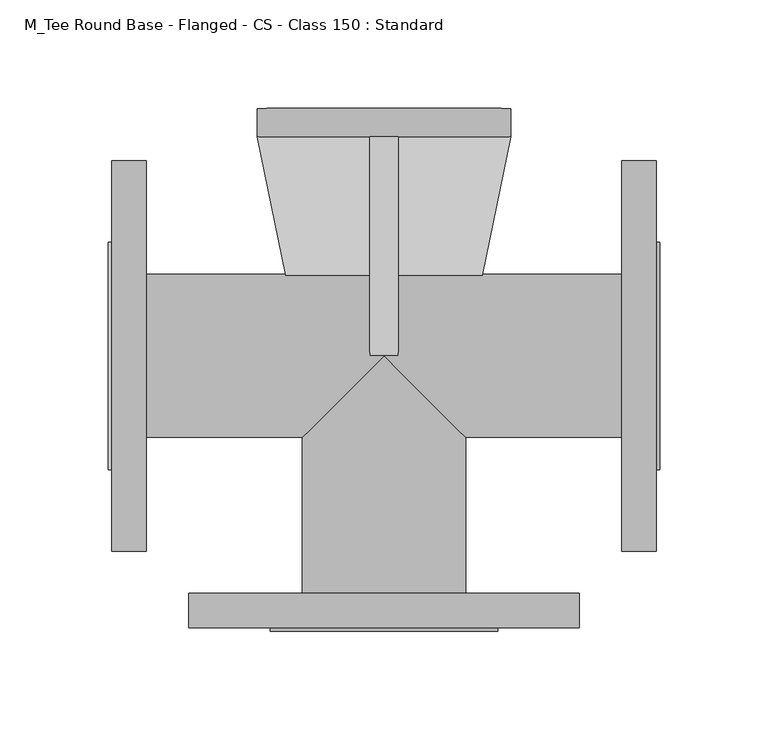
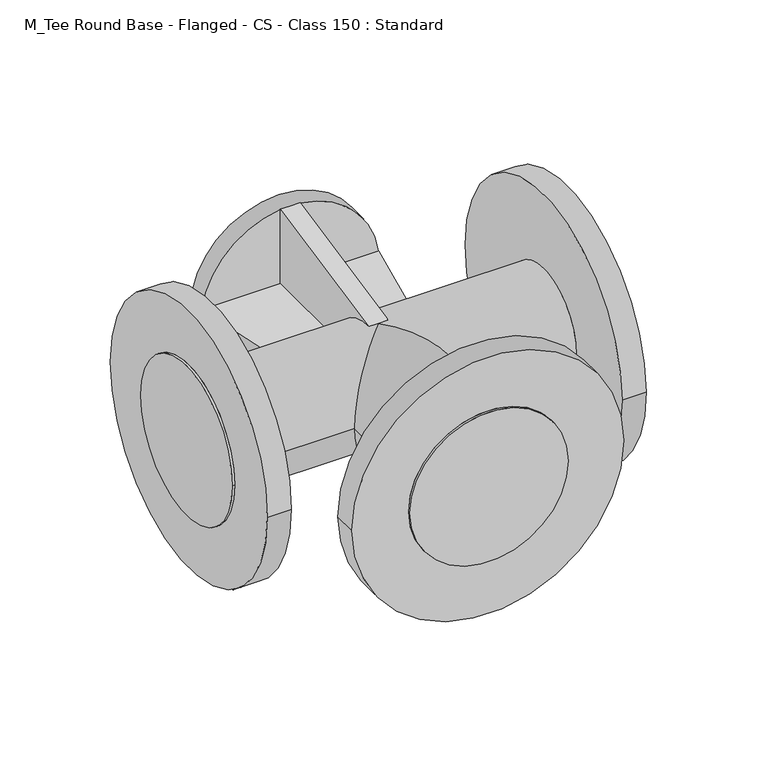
"""IFC4 building model written with IfcOpenShell, lengths in millimetres: pipe fitting geometry, M_Tee Round Base - Flanged - CS - Class 150 : Standard."""

import ifcopenshell
import ifcopenshell.guid

model = None  # the IFC model being written
_history = None  # IfcOwnerHistory: only IFC2X3 demands one
_inside = {}  # id of a spatial element -> (the spatial element, [elements in it])
_under = {}  # id of a project, library or spatial element -> (it, [spatial elements below it])
_declared = {}  # id of a project -> (the project, [libraries it declares])
_typed = {}  # id of a type object -> (the type object, [elements of that type])
_made_of = {}  # id of a material, layer set ... -> (it, [elements and type objects made of it])


def new_model(schema):
    """Start an empty IFC model of exactly this schema.

    Asked for "IFC4X3", IfcOpenShell would pick the latest addendum, in which some entities
    have other attributes; the version numbers below select the first issue.
    IFC2X3 requires an IfcOwnerHistory on every rooted entity: one is made here for all.
    """
    global model, _history
    if schema == "IFC4X3":
        model = ifcopenshell.file(schema_version=(4, 3, 0, 0))
    else:
        model = ifcopenshell.file(schema=schema)
    _inside.clear()
    _under.clear()
    _declared.clear()
    _typed.clear()
    _made_of.clear()
    _history = None
    if model.schema == "IFC2X3":
        org = make("IfcOrganization", Name="unknown")
        user = make(
            "IfcPersonAndOrganization",
            ThePerson=make("IfcPerson", FamilyName="unknown"),
            TheOrganization=org,
        )
        app = make(
            "IfcApplication",
            ApplicationDeveloper=org,
            Version="unknown",
            ApplicationFullName="unknown",
            ApplicationIdentifier="unknown",
        )
        _history = make(
            "IfcOwnerHistory",
            OwningUser=user,
            OwningApplication=app,
            ChangeAction="ADDED",
            CreationDate=0,
        )
    return model


def make(cls, **values):
    """One entity of the class cls with the attributes given. An attribute that is None is left unset."""
    return model.create_entity(
        cls, **{name: value for name, value in values.items() if value is not None}
    )


def rooted(cls, **values):
    """An entity with a GlobalId (a new one), such as an element, a storey or a relation."""
    return make(cls, GlobalId=ifcopenshell.guid.new(), OwnerHistory=_history, **values)


def si_unit(unit_type, name, prefix=None):
    """IfcSIUnit, for example si_unit("LENGTHUNIT", "METRE", prefix="MILLI")."""
    return make("IfcSIUnit", UnitType=unit_type, Prefix=prefix, Name=name)


def assignment(units):
    """IfcUnitAssignment: the units of a project."""
    return None if units is None else make("IfcUnitAssignment", Units=units)


def point(xyz):
    """IfcCartesianPoint."""
    return None if xyz is None else make("IfcCartesianPoint", Coordinates=xyz)


def direction(xyz):
    """IfcDirection."""
    return None if xyz is None else make("IfcDirection", DirectionRatios=xyz)


def frame(location, z_axis=None, x_axis=None):
    """IfcAxis2Placement3D, a coordinate frame: its origin and axes. An axis left out is left unset."""
    return make(
        "IfcAxis2Placement3D",
        Location=point(location),
        Axis=direction(z_axis),
        RefDirection=direction(x_axis),
    )


def origin():
    """The frame at (0, 0, 0) with its axes left unset."""
    return frame((0.0, 0.0, 0.0))


def place(relative_to, where):
    """IfcLocalPlacement: puts the frame where relative to a parent placement (None: the world)."""
    return make(
        "IfcLocalPlacement", PlacementRelTo=relative_to, RelativePlacement=where
    )


def context(
    kind, dimensions, precision=None, world=None, true_north=None, identifier=None
):
    """IfcGeometricRepresentationContext, for example the 3D "Model" context."""
    return make(
        "IfcGeometricRepresentationContext",
        ContextIdentifier=identifier,
        ContextType=kind,
        CoordinateSpaceDimension=dimensions,
        Precision=precision,
        WorldCoordinateSystem=world,
        TrueNorth=true_north,
    )


def project(units=None, contexts=None):
    """IfcProject with its units and contexts."""
    return rooted(
        "IfcProject",
        Name="project",
        RepresentationContexts=contexts,
        UnitsInContext=assignment(units),
    )


def spatial(cls, under=None, at=None, **own):
    """A site, building, storey or space (cls), placed at a placement, below another one or the project."""
    s = rooted(cls, ObjectPlacement=at, **own)
    if under is not None:
        _under.setdefault(under.id(), (under, []))[1].append(s)
    return s


def circle_curve(where, radius):
    """IfcCircle in the frame where."""
    return make("IfcCircle", Position=where, Radius=radius)


def ellipse_curve(where, semi_axis1, semi_axis2):
    """IfcEllipse in the frame where."""
    return make(
        "IfcEllipse", Position=where, SemiAxis1=semi_axis1, SemiAxis2=semi_axis2
    )


def shape(context_of_items, identifier, shape_type, items):
    """IfcShapeRepresentation: the items that make up one representation, for example the "Body"."""
    return make(
        "IfcShapeRepresentation",
        ContextOfItems=context_of_items,
        RepresentationIdentifier=identifier,
        RepresentationType=shape_type,
        Items=items,
    )


def source(mapping_origin, context_of_items, identifier, shape_type, items):
    """IfcRepresentationMap: a shape defined once, which mapped items show again and again."""
    return make(
        "IfcRepresentationMap",
        MappingOrigin=mapping_origin,
        MappedRepresentation=shape(context_of_items, identifier, shape_type, items),
    )


def transform(
    local_origin,
    x_axis=None,
    y_axis=None,
    z_axis=None,
    scale=None,
    scale2=None,
    scale3=None,
    uniform=True,
):
    """IfcCartesianTransformationOperator3D, or its non-uniform kind. x_axis, y_axis, z_axis: its Axis1, 2, 3."""
    if uniform:
        return make(
            "IfcCartesianTransformationOperator3D",
            Axis1=direction(x_axis),
            Axis2=direction(y_axis),
            LocalOrigin=point(local_origin),
            Scale=scale,
            Axis3=direction(z_axis),
        )
    return make(
        "IfcCartesianTransformationOperator3DnonUniform",
        Axis1=direction(x_axis),
        Axis2=direction(y_axis),
        LocalOrigin=point(local_origin),
        Scale=scale,
        Axis3=direction(z_axis),
        Scale2=scale2,
        Scale3=scale3,
    )


def mapped(mapping_source, mapping_target):
    """IfcMappedItem: shows the shape of a source again, moved by a transform."""
    return make(
        "IfcMappedItem", MappingSource=mapping_source, MappingTarget=mapping_target
    )


def made_of(thing, what):
    """Note that an element or type object is made of a material, layer set ...; save() writes the relation."""
    if what is not None:
        _made_of.setdefault(what.id(), (what, []))[1].append(thing)
    return thing


def element(
    cls,
    number,
    at=None,
    inside=None,
    cuts=None,
    type_object=None,
    material=None,
    context=None,
    identifier="Body",
    shape_type=None,
    held_by="IfcProductDefinitionShape",
    body=None,
    shapes=None,
    **own,
):
    """One element of the class cls, such as IfcWall. Its Tag is "e" and its number.

    at: its placement. inside: the storey or other place that contains it. cuts: it is an
    opening in that element (IfcRelVoidsElement). A single representation is given by context,
    identifier, shape_type and body (its items); several are given by shapes. held_by: the class
    of the entity that holds the representations. save() writes the other relations.
    """
    e = rooted(cls, Tag="e%d" % number, ObjectPlacement=at, **own)
    if body is not None:
        shapes = [shape(context, identifier, shape_type, body)]
    if shapes is not None:
        e.Representation = make(held_by, Representations=shapes)
    if inside is not None:
        _inside.setdefault(inside.id(), (inside, []))[1].append(e)
    if cuts is not None:
        rooted(
            "IfcRelVoidsElement", RelatingBuildingElement=cuts, RelatedOpeningElement=e
        )
    if type_object is not None:
        _typed.setdefault(type_object.id(), (type_object, []))[1].append(e)
    return made_of(e, material)


def aggregate(whole, parts):
    """IfcRelAggregates: a whole, such as a stair, and the parts it consists of."""
    return rooted("IfcRelAggregates", RelatingObject=whole, RelatedObjects=parts)


def save(model, path):
    """Write the relations noted so far, then the file.

    IfcRelAggregates (storeys below a building ...), IfcRelContainedInSpatialStructure (elements
    in a storey), IfcRelDefinesByType, IfcRelAssociatesMaterial and IfcRelDeclares: one each for
    every whole, place, type object, material and project.
    """
    for whole, parts in _under.values():
        aggregate(whole, parts)
    for where, things in _inside.values():
        rooted(
            "IfcRelContainedInSpatialStructure",
            RelatedElements=things,
            RelatingStructure=where,
        )
    for kind, things in _typed.values():
        rooted("IfcRelDefinesByType", RelatedObjects=things, RelatingType=kind)
    for what, things in _made_of.values():
        rooted("IfcRelAssociatesMaterial", RelatedObjects=things, RelatingMaterial=what)
    for by, libraries in _declared.values():
        rooted("IfcRelDeclares", RelatingContext=by, RelatedDefinitions=libraries)
    model.write(path)


def plane_surface(at):
    """IfcPlane: the flat surface through the origin of the frame at, square to its z axis."""
    return make("IfcPlane", Position=at)


def cylinder_surface(at, radius):
    """IfcCylindricalSurface: all points at the distance radius from the z axis of the frame at."""
    return make("IfcCylindricalSurface", Position=at, Radius=radius)


def advanced_brep(points, edges, surfaces, faces):
    """IfcAdvancedBrep: a solid bounded by faces that lie on surfaces and meet in shared edges.

    An edge is (start, end): straight between two places in points (the first is 0);
    or (start, end, curve); or (start, end, curve, False) where it runs against its curve.
    A face is (place in surfaces, loops), or (place, loops, False) where it looks against
    its surface's normal. A loop lists edges by number (the first is 1), with a minus sign
    where the edge is run from its end to its start. The first loop is the outer one.
    """
    corners = [point(p) for p in points]
    vertices = [make("IfcVertexPoint", VertexGeometry=c) for c in corners]
    made = []
    for start, end, *more in edges:
        made.append(
            make(
                "IfcEdgeCurve",
                EdgeStart=vertices[start],
                EdgeEnd=vertices[end],
                EdgeGeometry=more[0] if more else make("IfcPolyline", Points=[corners[start], corners[end]]),
                SameSense=more[1] if len(more) > 1 else True,
            )
        )
    hull = []
    for where, loops, *sense in faces:
        bounds = []
        for j, loop in enumerate(loops):
            ring = [make("IfcOrientedEdge", EdgeElement=made[abs(k) - 1], Orientation=k > 0) for k in loop]
            bounds.append(
                make(
                    "IfcFaceOuterBound" if j == 0 else "IfcFaceBound",
                    Bound=make("IfcEdgeLoop", EdgeList=ring),
                    Orientation=True,
                )
            )
        hull.append(make("IfcAdvancedFace", Bounds=bounds, FaceSurface=surfaces[where], SameSense=sense[0] if sense else True))
    return make("IfcAdvancedBrep", Outer=make("IfcClosedShell", CfsFaces=hull))


def m_tee_round_base_flanged_cs_class_150_standard_f067e6f9(model_context):
    return source(origin(), model_context, "Body", "AdvancedBrep", [
        advanced_brep(
        [(109.5125, -37.6, 0.0), (109.5125, 37.6, 0.0), (45.3805941, 37.6, 0.0), (45.2634513, 37.0339034, 6.5), (6.5, 37.0339034, 6.5), (6.5, 0.0, 37.6), (0.0, 0.0, 37.6), (37.6, -37.6, 0.0), (0.0, 0.0, -37.6), (6.5, 0.0, -37.6), (6.5, 37.0339034, -6.5), (45.2634513, 37.0339034, -6.5), (-109.5125, 37.6, 0.0), (-109.5125, -37.6, 0.0), (-37.6, -37.6, 0.0), (-6.5, 0.0, 37.6), (-6.5, 37.0339034, 6.5), (-45.2634513, 37.0339034, 6.5), (-45.3805941, 37.6, 0.0), (-45.2634513, 37.0339034, -6.5), (-6.5, 37.0339034, -6.5), (-6.5, 0.0, -37.6), (-125.4125, -90.0, 0.0), (-125.4125, 90.0, 0.0), (-125.4125, 52.4, 0.0), (-125.4125, -52.4, 0.0), (-109.5125, -90.0, 0.0), (-109.5125, 90.0, 0.0), (109.5125, -90.0, 0.0), (109.5125, 90.0, 0.0), (125.4125, -90.0, 0.0), (125.4125, 90.0, 0.0), (125.4125, -52.4, 0.0), (125.4125, 52.4, 0.0), (-127.0, 52.4, 0.0), (-127.0, -52.4, 0.0), (127.0, -52.4, 0.0), (127.0, 52.4, 0.0), (37.6, -109.5125, 0.0), (-37.6, -109.5125, 0.0), (-90.0, -109.5125, 0.0), (90.0, -109.5125, 0.0), (-90.0, -125.4125, 0.0), (90.0, -125.4125, 0.0), (-52.4, -125.4125, 0.0), (52.4, -125.4125, 0.0), (-52.4, -127.0, 0.0), (52.4, -127.0, 0.0), (-58.5, 101.0, 6.5), (-6.5, 101.0, 6.5), (-58.1377674, 101.0, 6.5), (58.5, 101.0, 6.5), (58.1377674, 101.0, 6.5), (6.5, 101.0, 6.5), (58.5, 101.0, -6.5), (6.5, 101.0, -6.5), (58.1377674, 101.0, -6.5), (-58.5, 101.0, -6.5), (-58.1377674, 101.0, -6.5), (-6.5, 101.0, -6.5), (-58.5, 101.0, 0.0), (58.5, 101.0, 0.0), (6.5, 101.0, -58.5), (0.0, 101.0, -58.5), (6.5, 101.0, -58.1377674), (-6.5, 101.0, -58.5), (-6.5, 101.0, -58.1377674), (6.5, 101.0, 58.5), (6.5, 101.0, 58.1377674), (0.0, 101.0, 58.5), (-6.5, 101.0, 58.1377674), (-6.5, 101.0, 58.5), (-58.5, 114.0, 0.0), (58.5, 114.0, 0.0)],
        [
            (0, 1, circle_curve(frame((109.5125, 0.0, 0.0), z_axis=(-1.0, 0.0, 0.0), x_axis=(0.0, 1.0, 0.0)), 37.6)),
            (1, 2),
            (2, 3, ellipse_curve(frame((37.6, 0.0, 0.0), z_axis=(0.9792537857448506, -0.20263766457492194, 0.0), x_axis=(-0.20263766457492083, -0.9792537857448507, 0.0)), 38.3965838, 37.6)),
            (3, 4),
            (4, 5, circle_curve(frame((6.5, 0.0, 0.0), z_axis=(1.0, 0.0, 0.0), x_axis=(0.0, 1.0, 0.0)), 37.6)),
            (5, 6),
            (6, 7, ellipse_curve(frame((0.0, 0.0, 0.0), z_axis=(0.7071067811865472, 0.7071067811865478, 0.0), x_axis=(-0.7071067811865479, 0.7071067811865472, 0.0)), 53.1744299, 37.6)),
            (7, 0),
            (1, 0, circle_curve(frame((109.5125, 0.0, 0.0), z_axis=(-1.0, 0.0, 0.0), x_axis=(0.0, 1.0, 0.0)), 37.6)),
            (7, 8, ellipse_curve(frame((0.0, 0.0, 0.0), z_axis=(0.7071067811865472, 0.7071067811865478, 0.0), x_axis=(-0.7071067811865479, 0.7071067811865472, 0.0)), 53.1744299, 37.6)),
            (8, 9),
            (9, 10, circle_curve(frame((6.5, 0.0, 0.0), z_axis=(1.0, 0.0, 0.0), x_axis=(0.0, 1.0, 0.0)), 37.6)),
            (10, 11),
            (11, 2, ellipse_curve(frame((37.6, 0.0, 0.0), z_axis=(0.9792537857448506, -0.20263766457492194, 0.0), x_axis=(-0.20263766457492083, -0.9792537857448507, 0.0)), 38.3965838, 37.6)),
            (12, 13, circle_curve(frame((-109.5125, 0.0, 0.0), z_axis=(1.0, 0.0, 0.0), x_axis=(0.0, 1.0, 0.0)), 37.6)),
            (13, 14),
            (14, 6, ellipse_curve(frame((0.0, 0.0, 0.0), z_axis=(-0.7071067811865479, 0.7071067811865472, 0.0), x_axis=(-0.707106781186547, -0.7071067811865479, 0.0)), 53.1744299, 37.6)),
            (6, 15),
            (15, 16, circle_curve(frame((-6.5, 0.0, 0.0), z_axis=(-1.0, 0.0, 0.0), x_axis=(0.0, 1.0, 0.0)), 37.6)),
            (16, 17),
            (17, 18, ellipse_curve(frame((-37.6, 0.0, 0.0), z_axis=(-0.9792537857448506, -0.20263766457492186, 0.0), x_axis=(-0.20263766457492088, 0.9792537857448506, 0.0)), 38.3965838, 37.6)),
            (18, 12),
            (13, 12, circle_curve(frame((-109.5125, 0.0, 0.0), z_axis=(1.0, 0.0, 0.0), x_axis=(0.0, 1.0, 0.0)), 37.6)),
            (18, 19, ellipse_curve(frame((-37.6, 0.0, 0.0), z_axis=(-0.9792537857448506, -0.20263766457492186, 0.0), x_axis=(-0.20263766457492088, 0.9792537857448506, 0.0)), 38.3965838, 37.6)),
            (19, 20),
            (20, 21, circle_curve(frame((-6.5, 0.0, 0.0), z_axis=(-1.0, 0.0, 0.0), x_axis=(0.0, 1.0, 0.0)), 37.6)),
            (21, 8),
            (8, 14, ellipse_curve(frame((0.0, 0.0, 0.0), z_axis=(-0.7071067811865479, 0.7071067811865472, 0.0), x_axis=(-0.707106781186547, -0.7071067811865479, 0.0)), 53.1744299, 37.6)),
            (22, 23, circle_curve(frame((-125.4125, 0.0, 0.0), z_axis=(-1.0, 0.0, 0.0), x_axis=(0.0, 1.0, 0.0)), 90.0)),
            (23, 22, circle_curve(frame((-125.4125, 0.0, 0.0), z_axis=(-1.0, 0.0, 0.0), x_axis=(0.0, 1.0, 0.0)), 90.0)),
            (24, 25, circle_curve(frame((-125.4125, 0.0, 0.0), z_axis=(1.0, 0.0, 0.0), x_axis=(0.0, -1.0, 0.0)), 52.4)),
            (25, 24, circle_curve(frame((-125.4125, 0.0, 0.0), z_axis=(1.0, 0.0, 0.0), x_axis=(0.0, -1.0, 0.0)), 52.4)),
            (26, 27, circle_curve(frame((-109.5125, 0.0, 0.0), z_axis=(1.0, 0.0, 0.0), x_axis=(0.0, 1.0, 0.0)), 90.0)),
            (27, 26, circle_curve(frame((-109.5125, 0.0, 0.0), z_axis=(1.0, 0.0, 0.0), x_axis=(0.0, 1.0, 0.0)), 90.0)),
            (22, 26),
            (27, 23),
            (28, 29, circle_curve(frame((109.5125, 0.0, 0.0), z_axis=(-1.0, 0.0, 0.0), x_axis=(0.0, 1.0, 0.0)), 90.0)),
            (29, 28, circle_curve(frame((109.5125, 0.0, 0.0), z_axis=(-1.0, 0.0, 0.0), x_axis=(0.0, 1.0, 0.0)), 90.0)),
            (30, 31, circle_curve(frame((125.4125, 0.0, 0.0), z_axis=(1.0, 0.0, 0.0), x_axis=(0.0, 1.0, 0.0)), 90.0)),
            (31, 30, circle_curve(frame((125.4125, 0.0, 0.0), z_axis=(1.0, 0.0, 0.0), x_axis=(0.0, 1.0, 0.0)), 90.0)),
            (32, 33, circle_curve(frame((125.4125, 0.0, 0.0), z_axis=(-1.0, 0.0, 0.0), x_axis=(0.0, 1.0, 0.0)), 52.4)),
            (33, 32, circle_curve(frame((125.4125, 0.0, 0.0), z_axis=(-1.0, 0.0, 0.0), x_axis=(0.0, 1.0, 0.0)), 52.4)),
            (28, 30),
            (31, 29),
            (34, 35, circle_curve(frame((-127.0, 0.0, 0.0), z_axis=(-1.0, 0.0, 0.0), x_axis=(0.0, -1.0, 0.0)), 52.4)),
            (35, 34, circle_curve(frame((-127.0, 0.0, 0.0), z_axis=(-1.0, 0.0, 0.0), x_axis=(0.0, -1.0, 0.0)), 52.4)),
            (35, 25),
            (24, 34),
            (36, 37, circle_curve(frame((127.0, 0.0, 0.0), z_axis=(1.0, 0.0, 0.0), x_axis=(0.0, 1.0, 0.0)), 52.4)),
            (37, 36, circle_curve(frame((127.0, 0.0, 0.0), z_axis=(1.0, 0.0, 0.0), x_axis=(0.0, 1.0, 0.0)), 52.4)),
            (37, 33),
            (32, 36),
            (38, 7),
            (14, 39),
            (39, 38, circle_curve(frame((0.0, -109.5125, 0.0), z_axis=(0.0, 1.0, 0.0), x_axis=(1.0, 0.0, 0.0)), 37.6)),
            (38, 39, circle_curve(frame((0.0, -109.5125, 0.0), z_axis=(0.0, 1.0, 0.0), x_axis=(1.0, 0.0, 0.0)), 37.6)),
            (40, 41, circle_curve(frame((0.0, -109.5125, 0.0), z_axis=(0.0, 1.0, 0.0), x_axis=(1.0, 0.0, 0.0)), 90.0)),
            (41, 40, circle_curve(frame((0.0, -109.5125, 0.0), z_axis=(0.0, 1.0, 0.0), x_axis=(1.0, 0.0, 0.0)), 90.0)),
            (42, 43, circle_curve(frame((0.0, -125.4125, 0.0), z_axis=(0.0, -1.0, 0.0), x_axis=(1.0, 0.0, 0.0)), 90.0)),
            (43, 42, circle_curve(frame((0.0, -125.4125, 0.0), z_axis=(0.0, -1.0, 0.0), x_axis=(1.0, 0.0, 0.0)), 90.0)),
            (44, 45, circle_curve(frame((0.0, -125.4125, 0.0), z_axis=(0.0, 1.0, 0.0), x_axis=(1.0, 0.0, 0.0)), 52.4)),
            (45, 44, circle_curve(frame((0.0, -125.4125, 0.0), z_axis=(0.0, 1.0, 0.0), x_axis=(1.0, 0.0, 0.0)), 52.4)),
            (40, 42),
            (43, 41),
            (46, 47, circle_curve(frame((0.0, -127.0, 0.0), z_axis=(0.0, -1.0, 0.0), x_axis=(1.0, 0.0, 0.0)), 52.4)),
            (47, 46, circle_curve(frame((0.0, -127.0, 0.0), z_axis=(0.0, -1.0, 0.0), x_axis=(1.0, 0.0, 0.0)), 52.4)),
            (47, 45),
            (44, 46),
            (48, 17),
            (16, 49),
            (49, 50),
            (50, 48),
            (3, 51),
            (51, 52),
            (52, 53),
            (53, 4),
            (54, 11),
            (10, 55),
            (55, 56),
            (56, 54),
            (19, 57),
            (57, 58),
            (58, 59),
            (59, 20),
            (50, 60, circle_curve(frame((0.0, 101.0, 0.0), z_axis=(0.0, -1.0, 0.0), x_axis=(1.0, 0.0, 0.0)), 58.5)),
            (60, 48),
            (51, 61),
            (61, 52, circle_curve(frame((0.0, 101.0, 0.0), z_axis=(0.0, -1.0, 0.0), x_axis=(1.0, 0.0, 0.0)), 58.5)),
            (56, 61, circle_curve(frame((0.0, 101.0, 0.0), z_axis=(0.0, -1.0, 0.0), x_axis=(1.0, 0.0, 0.0)), 58.5)),
            (61, 54),
            (57, 60),
            (60, 58, circle_curve(frame((0.0, 101.0, 0.0), z_axis=(0.0, -1.0, 0.0), x_axis=(1.0, 0.0, 0.0)), 58.5)),
            (62, 63),
            (63, 64, circle_curve(frame((0.0, 101.0, 0.0), z_axis=(0.0, -1.0, 0.0), x_axis=(1.0, 0.0, 0.0)), 58.5)),
            (64, 62),
            (63, 65),
            (65, 66),
            (66, 63, circle_curve(frame((0.0, 101.0, 0.0), z_axis=(0.0, -1.0, 0.0), x_axis=(1.0, 0.0, 0.0)), 58.5)),
            (67, 68),
            (68, 69, circle_curve(frame((0.0, 101.0, 0.0), z_axis=(0.0, -1.0, 0.0), x_axis=(1.0, 0.0, 0.0)), 58.5)),
            (69, 67),
            (70, 71),
            (71, 69),
            (69, 70, circle_curve(frame((0.0, 101.0, 0.0), z_axis=(0.0, -1.0, 0.0), x_axis=(1.0, 0.0, 0.0)), 58.5)),
            (67, 5),
            (53, 68),
            (9, 62),
            (64, 55),
            (65, 21),
            (59, 66),
            (15, 71),
            (70, 49),
            (72, 73, circle_curve(frame((0.0, 114.0, 0.0), z_axis=(0.0, 1.0, 0.0), x_axis=(1.0, 0.0, 0.0)), 58.5)),
            (73, 72, circle_curve(frame((0.0, 114.0, 0.0), z_axis=(0.0, 1.0, 0.0), x_axis=(1.0, 0.0, 0.0)), 58.5)),
            (52, 68, circle_curve(frame((0.0, 101.0, 0.0), z_axis=(0.0, -1.0, 0.0), x_axis=(1.0, 0.0, 0.0)), 58.5)),
            (64, 56, circle_curve(frame((0.0, 101.0, 0.0), z_axis=(0.0, -1.0, 0.0), x_axis=(1.0, 0.0, 0.0)), 58.5)),
            (58, 66, circle_curve(frame((0.0, 101.0, 0.0), z_axis=(0.0, -1.0, 0.0), x_axis=(1.0, 0.0, 0.0)), 58.5)),
            (70, 50, circle_curve(frame((0.0, 101.0, 0.0), z_axis=(0.0, -1.0, 0.0), x_axis=(1.0, 0.0, 0.0)), 58.5)),
            (72, 60),
            (61, 73),
        ],
        [
            cylinder_surface(frame((0.0, 0.0, 0.0), z_axis=(-1.0, 0.0, 0.0), x_axis=(0.0, 1.0, 0.0)), 37.6),
            cylinder_surface(frame((-109.5125, 0.0, 0.0), z_axis=(-1.0, 0.0, 0.0), x_axis=(0.0, 1.0, 0.0)), 37.6),
            plane_surface(frame((-125.4125, 0.0, 0.0), z_axis=(-1.0, 0.0, 0.0), x_axis=(0.0, 0.0, 1.0))),
            plane_surface(frame((-109.5125, 0.0, 0.0), z_axis=(1.0, 0.0, 0.0), x_axis=(0.0, 0.0, 1.0))),
            cylinder_surface(frame((-125.4125, 0.0, 0.0), z_axis=(-1.0, 0.0, 0.0), x_axis=(0.0, 1.0, 0.0)), 90.0),
            plane_surface(frame((109.5125, 0.0, 0.0), z_axis=(-1.0, 0.0, 0.0), x_axis=(0.0, 0.0, 1.0))),
            plane_surface(frame((125.4125, 0.0, 0.0), z_axis=(1.0, 0.0, 0.0), x_axis=(0.0, 0.0, 1.0))),
            cylinder_surface(frame((109.5125, 0.0, 0.0), z_axis=(-1.0, 0.0, 0.0), x_axis=(0.0, 1.0, 0.0)), 90.0),
            plane_surface(frame((-127.0, 0.0, 0.0), z_axis=(-1.0, 0.0, 0.0), x_axis=(0.0, 0.0, 1.0))),
            cylinder_surface(frame((-125.4125, 0.0, 0.0), z_axis=(1.0, 0.0, 0.0), x_axis=(0.0, -1.0, 0.0)), 52.4),
            plane_surface(frame((127.0, 0.0, 0.0), z_axis=(1.0, 0.0, 0.0), x_axis=(0.0, 0.0, 1.0))),
            cylinder_surface(frame((125.4125, 0.0, 0.0), z_axis=(-1.0, 0.0, 0.0), x_axis=(0.0, 1.0, 0.0)), 52.4),
            cylinder_surface(frame((0.0, 0.0, 0.0), z_axis=(0.0, 1.0, 0.0), x_axis=(1.0, 0.0, 0.0)), 37.6),
            plane_surface(frame((0.0, -109.5125, 0.0), z_axis=(0.0, 1.0, 0.0), x_axis=(0.0, 0.0, 1.0))),
            plane_surface(frame((0.0, -125.4125, 0.0), z_axis=(0.0, -1.0, 0.0), x_axis=(0.0, 0.0, 1.0))),
            cylinder_surface(frame((0.0, -109.5125, 0.0), z_axis=(0.0, 1.0, 0.0), x_axis=(1.0, 0.0, 0.0)), 90.0),
            plane_surface(frame((0.0, -127.0, 0.0), z_axis=(0.0, -1.0, 0.0), x_axis=(0.0, 0.0, 1.0))),
            cylinder_surface(frame((0.0, -125.4125, 0.0), z_axis=(0.0, 1.0, 0.0), x_axis=(1.0, 0.0, 0.0)), 52.4),
            plane_surface(frame((-58.5, 101.0, 6.5), z_axis=(0.0, 0.0, 1.0), x_axis=(-1.0, 0.0, 0.0))),
            plane_surface(frame((-58.5, 101.0, -6.5), z_axis=(0.0, 0.0, -1.0), x_axis=(1.0, 0.0, 0.0))),
            plane_surface(frame((58.5, 101.0, 6.5), z_axis=(0.0, 1.0, 0.0), x_axis=(0.0, 0.0, -1.0))),
            plane_surface(frame((-58.5, 101.0, 6.5), z_axis=(-0.9792537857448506, -0.20263766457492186, 0.0), x_axis=(0.0, 0.0, -1.0))),
            plane_surface(frame((37.6, 0.0, 6.5), z_axis=(0.9792537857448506, -0.20263766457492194, 0.0), x_axis=(0.0, 0.0, -1.0))),
            plane_surface(frame((6.5, 101.0, 58.5), z_axis=(1.0, 0.0, 0.0), x_axis=(0.0, 0.0, 1.0))),
            plane_surface(frame((-6.5, 101.0, 58.5), z_axis=(-1.0, 0.0, 0.0), x_axis=(0.0, 0.0, -1.0))),
            plane_surface(frame((6.5, 101.0, 58.5), z_axis=(0.0, -0.20263766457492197, 0.9792537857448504), x_axis=(-1.0, 0.0, 0.0))),
            plane_surface(frame((6.5, 0.0, -37.6), z_axis=(0.0, -0.2026376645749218, -0.9792537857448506), x_axis=(-1.0, 0.0, 0.0))),
            plane_surface(frame((0.0, 114.0, 0.0), z_axis=(0.0, 1.0, 0.0), x_axis=(0.0, 0.0, 1.0))),
            plane_surface(frame((0.0, 101.0, 0.0), z_axis=(0.0, -1.0, 0.0), x_axis=(0.0, 0.0, 1.0))),
            cylinder_surface(frame((0.0, 114.0, 0.0), z_axis=(0.0, 1.0, 0.0), x_axis=(1.0, 0.0, 0.0)), 58.5),
        ],
        [
            (0, [[1, 2, 3, 4, 5, 6, 7, 8]]),
            (0, [[9, -8, 10, 11, 12, 13, 14, -2]]),
            (1, [[15, 16, 17, 18, 19, 20, 21, 22]]),
            (1, [[23, -22, 24, 25, 26, 27, 28, -16]]),
            (2, [[29, 30], [31, 32]]),
            (3, [[33, 34], [-15, -23]]),
            (4, [[-29, 35, -34, 36]]),
            (4, [[-30, -36, -33, -35]]),
            (5, [[37, 38], [-1, -9]]),
            (6, [[39, 40], [41, 42]]),
            (7, [[-37, 43, -40, 44]]),
            (7, [[-38, -44, -39, -43]]),
            (8, [[45, 46]]),
            (9, [[-46, 47, -31, 48]]),
            (9, [[-45, -48, -32, -47]]),
            (10, [[49, 50]]),
            (11, [[-50, 51, -41, 52]]),
            (11, [[-49, -52, -42, -51]]),
            (12, [[53, -7, -17, 54, 55]]),
            (12, [[-53, 56, -54, -28, -10]]),
            (13, [[57, 58], [-55, -56]]),
            (14, [[59, 60], [61, 62]]),
            (15, [[-57, 63, -60, 64]]),
            (15, [[-58, -64, -59, -63]]),
            (16, [[65, 66]]),
            (17, [[-66, 67, -61, 68]]),
            (17, [[-65, -68, -62, -67]]),
            (18, [[69, -20, 70, 71, 72]]),
            (18, [[73, 74, 75, 76, -4]]),
            (19, [[77, -13, 78, 79, 80]]),
            (19, [[81, 82, 83, 84, -25]]),
            (20, [[-72, 85, 86]]),
            (20, [[-74, 87, 88]]),
            (20, [[-80, 89, 90]]),
            (20, [[-82, 91, 92]]),
            (20, [[93, 94, 95]]),
            (20, [[96, 97, 98]]),
            (20, [[99, 100, 101]]),
            (20, [[102, 103, 104]]),
            (21, [[-69, -86, -91, -81, -24, -21]]),
            (22, [[-73, -3, -14, -77, -90, -87]]),
            (23, [[105, -5, -76, 106, -99]]),
            (23, [[107, -95, 108, -78, -12]]),
            (24, [[109, -26, -84, 110, -97]]),
            (24, [[111, -102, 112, -70, -19]]),
            (25, [[-105, -101, -103, -111, -18, -6]]),
            (26, [[-107, -11, -27, -109, -96, -93]]),
            (27, [[113, 114]]),
            (28, [[115, -106, -75]]),
            (28, [[116, -79, -108]]),
            (28, [[117, -110, -83]]),
            (28, [[118, -71, -112]]),
            (29, [[-113, 119, -85, -118, -104, -100, -115, -88, 120]]),
            (29, [[-114, -120, -89, -116, -94, -98, -117, -92, -119]]),
        ],
    ),
    ])


if __name__ == "__main__":
    model = new_model("IFC4")
    model_context = context("Model", 3, world=origin())
    ifc_project = project(units=[si_unit("LENGTHUNIT", "METRE", prefix="MILLI")], contexts=[model_context])
    site = spatial("IfcSite", under=ifc_project)
    building = spatial("IfcBuilding", under=site)
    placement = place(None, origin())
    m_tee_round_base_flanged_cs_class_150_standard_shape = m_tee_round_base_flanged_cs_class_150_standard_f067e6f9(model_context)
    element("IfcPipeFitting", 1, ObjectType="M_Tee Round Base - Flanged - CS - Class 150 : Standard", at=placement, inside=building, context=model_context, shape_type="MappedRepresentation", body=[
        mapped(m_tee_round_base_flanged_cs_class_150_standard_shape, transform((0.0, 0.0, 0.0), x_axis=(1.0, 0.0, 0.0), y_axis=(0.0, 1.0, 0.0), z_axis=(0.0, 0.0, 1.0))),
    ])
    save(model, "model.ifc")
